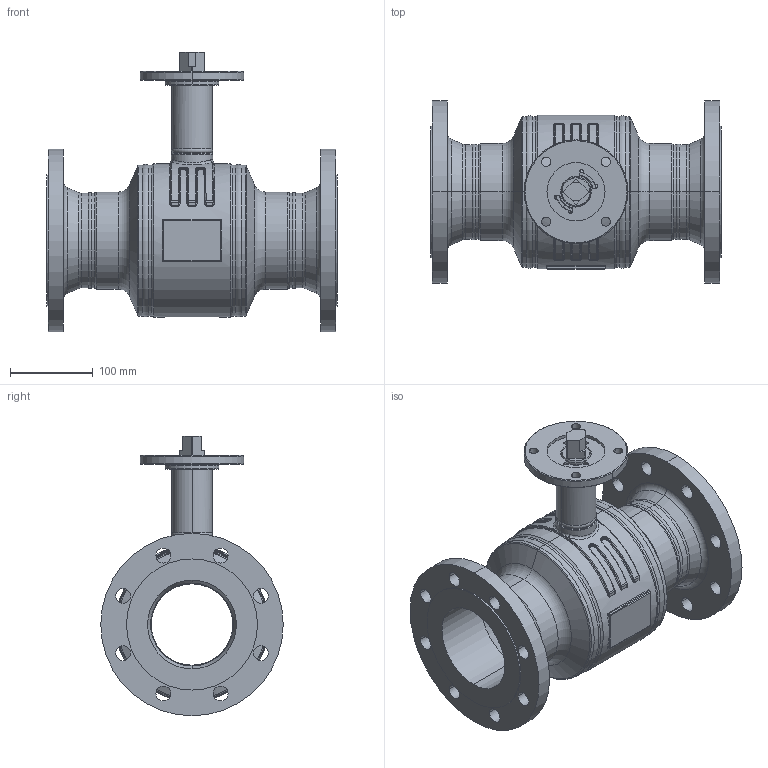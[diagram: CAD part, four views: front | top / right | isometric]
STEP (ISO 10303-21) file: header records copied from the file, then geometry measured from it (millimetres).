
FILE_DESCRIPTION((''),'2;1');
FILE_NAME('KHMO-F-V-H-100P016-VI_SW0001','2025-04-22T15:37:09',('jeitlers'),('KLINGER'),'CREO PARAMETRIC BY PTC INC, 2023014','CREO PARAMETRIC BY PTC INC, 2023014','');
FILE_SCHEMA(('CONFIG_CONTROL_DESIGN'));
Length unit declared in the file: millimetre
Products named in the file (1): KHMO-F-V-H-100P016-VI_SW0001
Bounding box: 350 x 220 x 337 mm (x, y, z)
Volume: 3283751.3 mm3; surface area: 757724.7 mm2
Topology: 2 solids, 2 shells, 596 faces, 1435 edges, 858 vertices
Faces by surface type: cylinder 230, torus 120, plane 108, cone 78, bspline 52, sphere 8
Entity records: 29638 total; most frequent: CARTESIAN_POINT 15596, DIRECTION 3123, ORIENTED_EDGE 2854, EDGE_CURVE 1427, AXIS2_PLACEMENT_3D 1326, VERTEX_POINT 858, CIRCLE 782, EDGE_LOOP 679
